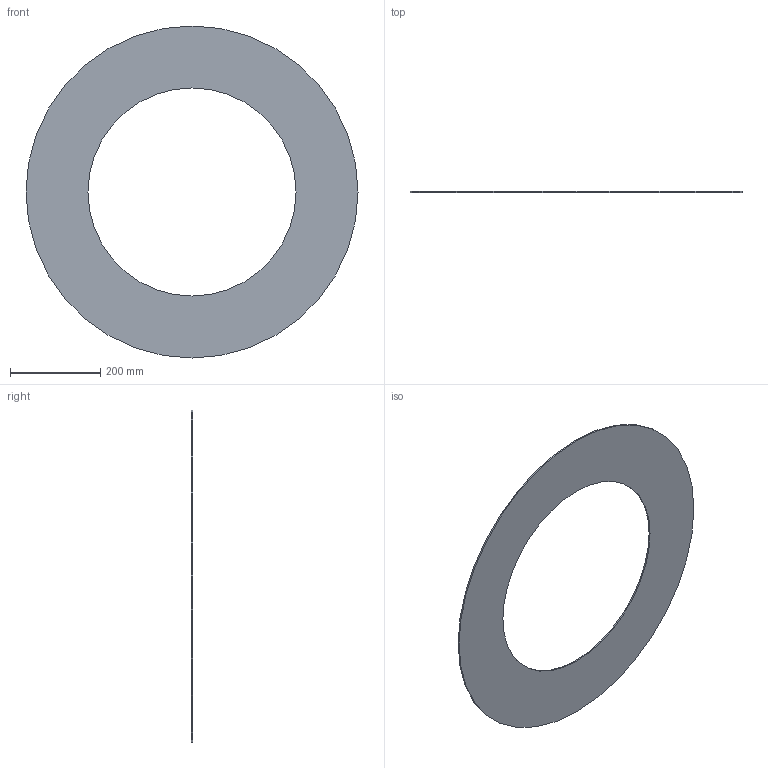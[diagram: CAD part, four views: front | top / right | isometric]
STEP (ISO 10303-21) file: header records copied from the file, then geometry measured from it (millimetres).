
FILE_DESCRIPTION(/* description */ ('Unknown'),/* implementation_level */ '2;1');
FILE_NAME(/* name */ 'GUA.560C',/* time_stamp */ '2021-04-01T14:26:27+02:00',/* author */ ('Unknown'),/* organization */ ('Unknown'),/* preprocessor_version */ 'ST-DEVELOPER v16.7',/* originating_system */ 'Solid Edge',/* authorisation */ 'Unknown');
FILE_SCHEMA (('AUTOMOTIVE_DESIGN {1 0 10303 214 3 1 1}'));
Length unit declared in the file: millimetre
Products named in the file (1): GUA.560C
Bounding box: 734 x 3 x 734 mm (x, y, z)
Volume: 770843.2 mm3; surface area: 525148.6 mm2
Topology: 1 solids, 1 shells, 4 faces, 6 edges, 4 vertices
Faces by surface type: cylinder 2, plane 2
Full cylindrical faces by diameter (mm): 460 x1, 734 x1
Entity records: 118 total; most frequent: DIRECTION 18, CARTESIAN_POINT 13, AXIS2_PLACEMENT_3D 9, ORIENTED_EDGE 8, EDGE_LOOP 8, FACE_BOUND 8, EDGE_CURVE 4, VERTEX_POINT 4
